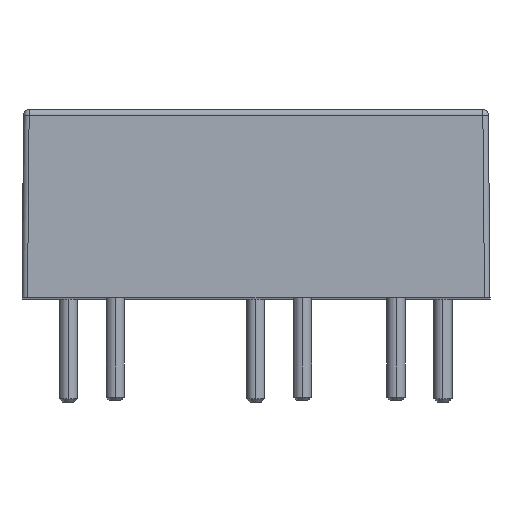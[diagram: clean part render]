
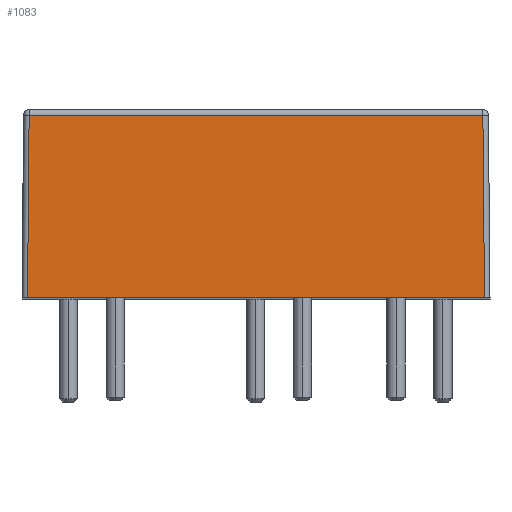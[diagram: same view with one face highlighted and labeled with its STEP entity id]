
A CAD part, top view. The second image highlights one B-rep face of the part: STEP entity #1083.
In plain terms, the highlighted planar face has unit normal (0, 0.009, 1).
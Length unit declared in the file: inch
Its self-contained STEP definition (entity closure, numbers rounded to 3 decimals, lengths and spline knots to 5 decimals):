
#42 = VERTEX_POINT ( 'NONE', #1779 ) ;
#59 = LINE ( 'NONE', #775, #1568 ) ;
#65 = VERTEX_POINT ( 'NONE', #843 ) ;
#84 = CARTESIAN_POINT ( 'NONE',  ( -0.5, 0.38987, 0.9966 ) ) ;
#91 = DIRECTION ( 'NONE',  ( -1., 0., 0. ) ) ;
#157 = LINE ( 'NONE', #726, #220 ) ;
#163 = ORIENTED_EDGE ( 'NONE', *, *, #345, .T. ) ;
#186 = LINE ( 'NONE', #1430, #796 ) ;
#220 = VECTOR ( 'NONE', #1302, 39.37008 ) ;
#249 = AXIS2_PLACEMENT_3D ( 'NONE', #1819, #1578, #533 ) ;
#257 = CARTESIAN_POINT ( 'NONE',  ( 0.48479, 0.38987, 0.9966 ) ) ;
#345 = EDGE_CURVE ( 'NONE', #503, #520, #1232, .T. ) ;
#402 = FACE_OUTER_BOUND ( 'NONE', #415, .T. ) ;
#415 = EDGE_LOOP ( 'NONE', ( #1712, #1275, #163, #1371 ) ) ;
#476 = DIRECTION ( 'NONE',  ( -0.009, -1., 0.009 ) ) ;
#503 = VERTEX_POINT ( 'NONE', #257 ) ;
#520 = VERTEX_POINT ( 'NONE', #1579 ) ;
#533 = DIRECTION ( 'NONE',  ( 1., 0., 0. ) ) ;
#726 = CARTESIAN_POINT ( 'NONE',  ( -0.5, 0., 1. ) ) ;
#775 = CARTESIAN_POINT ( 'NONE',  ( 0.48811, 0.00862, 0.99992 ) ) ;
#796 = VECTOR ( 'NONE', #476, 39.37008 ) ;
#809 = PLANE ( 'NONE',  #249 ) ;
#843 = CARTESIAN_POINT ( 'NONE',  ( 0.48819, 0., 1. ) ) ;
#1003 = EDGE_CURVE ( 'NONE', #42, #65, #157, .T. ) ;
#1083 = ADVANCED_FACE ( 'NONE', ( #402 ), #809, .T. ) ;
#1232 = LINE ( 'NONE', #84, #1827 ) ;
#1239 = EDGE_CURVE ( 'NONE', #65, #503, #59, .T. ) ;
#1275 = ORIENTED_EDGE ( 'NONE', *, *, #1239, .T. ) ;
#1302 = DIRECTION ( 'NONE',  ( 1., 0., 0. ) ) ;
#1342 = DIRECTION ( 'NONE',  ( -0.009, 1., -0.009 ) ) ;
#1371 = ORIENTED_EDGE ( 'NONE', *, *, #1668, .T. ) ;
#1430 = CARTESIAN_POINT ( 'NONE',  ( -0.48819, -0.0001, 1. ) ) ;
#1568 = VECTOR ( 'NONE', #1342, 39.37008 ) ;
#1578 = DIRECTION ( 'NONE',  ( 0., 0.009, 1. ) ) ;
#1579 = CARTESIAN_POINT ( 'NONE',  ( -0.48479, 0.38987, 0.9966 ) ) ;
#1668 = EDGE_CURVE ( 'NONE', #520, #42, #186, .T. ) ;
#1712 = ORIENTED_EDGE ( 'NONE', *, *, #1003, .T. ) ;
#1779 = CARTESIAN_POINT ( 'NONE',  ( -0.48819, 0., 1. ) ) ;
#1819 = CARTESIAN_POINT ( 'NONE',  ( -0.5, 0., 1. ) ) ;
#1827 = VECTOR ( 'NONE', #91, 39.37008 ) ;
